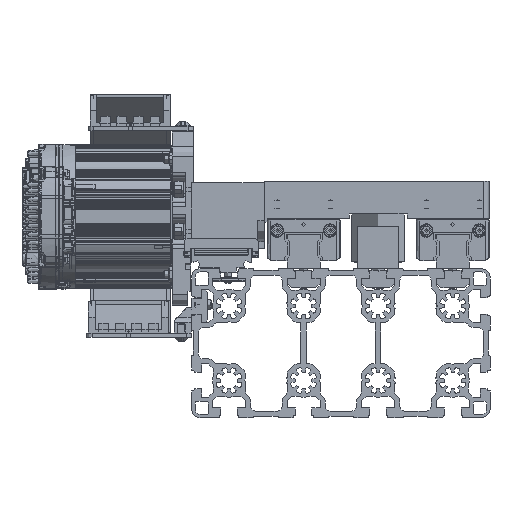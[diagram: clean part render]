
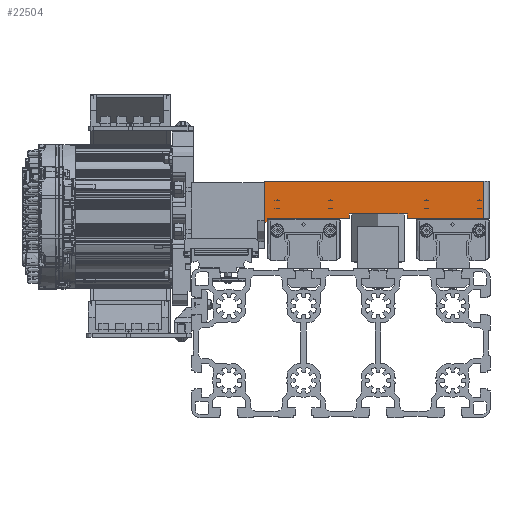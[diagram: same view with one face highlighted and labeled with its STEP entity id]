
A CAD part, front view. The second image highlights one B-rep face of the part: STEP entity #22504.
In plain terms, the highlighted planar face has unit normal (0, -1, 0) as drawn and (1, 0, 0) by its records, which use the part's own axes.
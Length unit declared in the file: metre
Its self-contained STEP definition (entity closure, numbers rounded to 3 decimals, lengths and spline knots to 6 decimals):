
#22504 = ADVANCED_FACE( '', ( #45335 ), #45336, .F. );
#45335 = FACE_OUTER_BOUND( '', #129898, .T. );
#45336 = PLANE( '', #129899 );
#129898 = EDGE_LOOP( '', ( #191501, #191502, #191503, #191504, #191505, #191506, #191507, #191508, #191509, #191510 ) );
#129899 = AXIS2_PLACEMENT_3D( '', #191511, #191512, #191513 );
#191501 = ORIENTED_EDGE( '', *, *, #209114, .F. );
#191502 = ORIENTED_EDGE( '', *, *, #223273, .F. );
#191503 = ORIENTED_EDGE( '', *, *, #223274, .T. );
#191504 = ORIENTED_EDGE( '', *, *, #209934, .T. );
#191505 = ORIENTED_EDGE( '', *, *, #208993, .F. );
#191506 = ORIENTED_EDGE( '', *, *, #208502, .F. );
#191507 = ORIENTED_EDGE( '', *, *, #222538, .F. );
#191508 = ORIENTED_EDGE( '', *, *, #214965, .F. );
#191509 = ORIENTED_EDGE( '', *, *, #215665, .T. );
#191510 = ORIENTED_EDGE( '', *, *, #222461, .T. );
#191511 = CARTESIAN_POINT( '', ( 0.08, -0.01905, 0.07167 ) );
#191512 = DIRECTION( '', ( -1., 0., 0. ) );
#191513 = DIRECTION( '', ( 0., 0., -1. ) );
#208502 = EDGE_CURVE( '', #238167, #238162, #238169, .T. );
#208993 = EDGE_CURVE( '', #238162, #238953, #238957, .T. );
#209114 = EDGE_CURVE( '', #239152, #239154, #239155, .T. );
#209934 = EDGE_CURVE( '', #240448, #238953, #240449, .T. );
#214965 = EDGE_CURVE( '', #248082, #248084, #248085, .T. );
#215665 = EDGE_CURVE( '', #248082, #249049, #249051, .T. );
#222461 = EDGE_CURVE( '', #249049, #239154, #257565, .T. );
#222538 = EDGE_CURVE( '', #248084, #238167, #257649, .T. );
#223273 = EDGE_CURVE( '', #258467, #239152, #258468, .T. );
#223274 = EDGE_CURVE( '', #258467, #240448, #258469, .T. );
#238162 = VERTEX_POINT( '', #295196 );
#238167 = VERTEX_POINT( '', #295203 );
#238169 = LINE( '', #295206, #295207 );
#238953 = VERTEX_POINT( '', #297320 );
#238957 = LINE( '', #297326, #297327 );
#239152 = VERTEX_POINT( '', #298181 );
#239154 = VERTEX_POINT( '', #298184 );
#239155 = LINE( '', #298185, #298186 );
#240448 = VERTEX_POINT( '', #301345 );
#240449 = LINE( '', #301346, #301347 );
#248082 = VERTEX_POINT( '', #320283 );
#248084 = VERTEX_POINT( '', #320286 );
#248085 = LINE( '', #320287, #320288 );
#249049 = VERTEX_POINT( '', #322779 );
#249051 = LINE( '', #322782, #322783 );
#257565 = LINE( '', #344976, #344977 );
#257649 = LINE( '', #345175, #345176 );
#258467 = VERTEX_POINT( '', #347199 );
#258468 = LINE( '', #347200, #347201 );
#258469 = LINE( '', #347202, #347203 );
#295196 = CARTESIAN_POINT( '', ( 0.08, -0.005842, 0.06405 ) );
#295203 = CARTESIAN_POINT( '', ( 0.08, -0.005842, 0.06233 ) );
#295206 = CARTESIAN_POINT( '', ( 0.08, -0.005842, -0.07167 ) );
#295207 = VECTOR( '', #359936, 1. );
#297320 = CARTESIAN_POINT( '', ( 0.08, 0.01905, 0.06405 ) );
#297326 = CARTESIAN_POINT( '', ( 0.08, 0.01905, 0.06405 ) );
#297327 = VECTOR( '', #360583, 1. );
#298181 = CARTESIAN_POINT( '', ( 0.08, -0.00381, -0.02217 ) );
#298184 = CARTESIAN_POINT( '', ( 0.08, -0.00081, -0.02217 ) );
#298185 = CARTESIAN_POINT( '', ( 0.08, -0.00231, -0.02217 ) );
#298186 = VECTOR( '', #360696, 1. );
#301345 = CARTESIAN_POINT( '', ( 0.08, 0.01905, -0.068495 ) );
#301346 = CARTESIAN_POINT( '', ( 0.08, 0.01905, 0.07167 ) );
#301347 = VECTOR( '', #361742, 1. );
#320283 = CARTESIAN_POINT( '', ( 0.08, -0.00381, 0.01283 ) );
#320286 = CARTESIAN_POINT( '', ( 0.08, -0.00381, 0.06233 ) );
#320287 = CARTESIAN_POINT( '', ( 0.08, -0.00381, -0.07167 ) );
#320288 = VECTOR( '', #368634, 1. );
#322779 = CARTESIAN_POINT( '', ( 0.08, -0.00081, 0.01283 ) );
#322782 = CARTESIAN_POINT( '', ( 0.08, -0.00231, 0.01283 ) );
#322783 = VECTOR( '', #369464, 1. );
#344976 = CARTESIAN_POINT( '', ( 0.08, -0.00081, -0.01342 ) );
#344977 = VECTOR( '', #376771, 1. );
#345175 = CARTESIAN_POINT( '', ( 0.08, -0.01905, 0.06233 ) );
#345176 = VECTOR( '', #376834, 1. );
#347199 = CARTESIAN_POINT( '', ( 0.08, -0.00381, -0.068495 ) );
#347200 = CARTESIAN_POINT( '', ( 0.08, -0.00381, -0.07167 ) );
#347201 = VECTOR( '', #377408, 1. );
#347202 = CARTESIAN_POINT( '', ( 0.08, -0.01905, -0.068495 ) );
#347203 = VECTOR( '', #377409, 1. );
#359936 = DIRECTION( '', ( 0., 0., 1. ) );
#360583 = DIRECTION( '', ( 0., 1., 0. ) );
#360696 = DIRECTION( '', ( 0., 1., 0. ) );
#361742 = DIRECTION( '', ( 0., 0., 1. ) );
#368634 = DIRECTION( '', ( 0., 0., 1. ) );
#369464 = DIRECTION( '', ( 0., 1., 0. ) );
#376771 = DIRECTION( '', ( 0., 0., -1. ) );
#376834 = DIRECTION( '', ( 0., -1., 0. ) );
#377408 = DIRECTION( '', ( 0., 0., 1. ) );
#377409 = DIRECTION( '', ( 0., 1., 0. ) );
